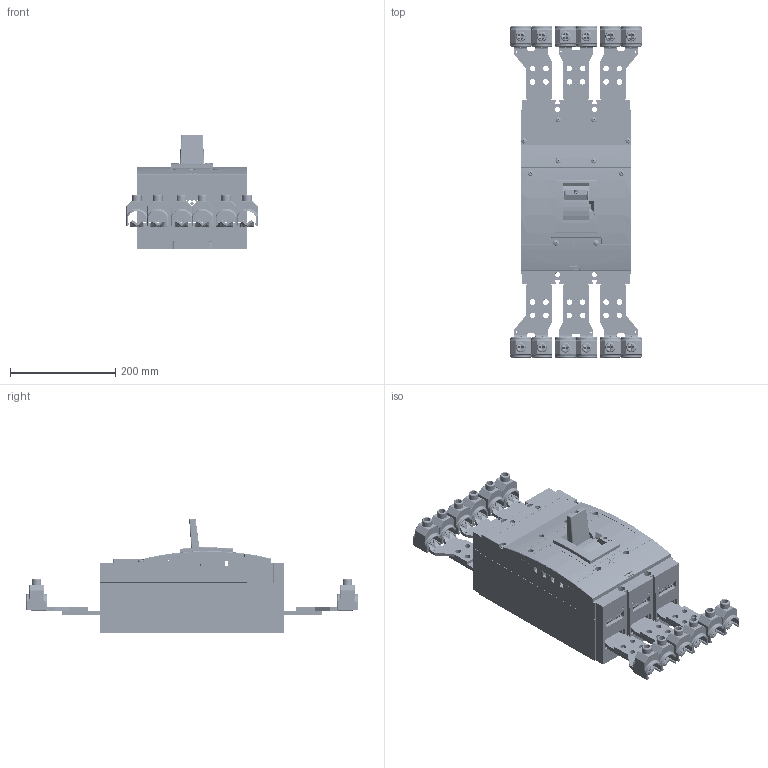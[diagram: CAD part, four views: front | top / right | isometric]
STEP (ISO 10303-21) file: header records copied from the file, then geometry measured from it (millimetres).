
FILE_DESCRIPTION (( 'STEP AP214' ), '1' );
FILE_NAME ('BL1000SE305__SE-BL-J__CS-BL-W010.step', '2011-09-08T09:02:14', ( 'Radek Veselý' ), ( 'Siemens and Partners' ), 'SwSTEP 2.0', 'SolidWorks 2006303', '' );
FILE_SCHEMA (( 'AUTOMOTIVE_DESIGN' ));
Length unit declared in the file: millimetre
Products named in the file (1): BL1000SE305__SE-BL-J__CS-BL-W010
Bounding box: 249.6 x 631.21 x 218.52 mm (x, y, z)
Volume: 3868471 mm3; surface area: 1589788.5 mm2
Topology: 57 solids, 57 shells, 9519 faces, 24738 edges, 15197 vertices
Faces by surface type: plane 5745, cylinder 2633, bspline 334, torus 331, sphere 254, cone 222
Entity records: 407403 total; most frequent: CARTESIAN_POINT 69514, ORIENTED_EDGE 49026, DIRECTION 47688, EDGE_CURVE 24513, VECTOR 17020, LINE 17020, AXIS2_PLACEMENT_3D 15334, VERTEX_POINT 15187
